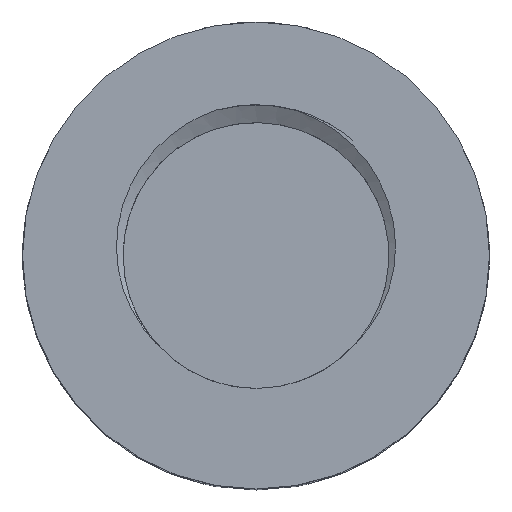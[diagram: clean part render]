
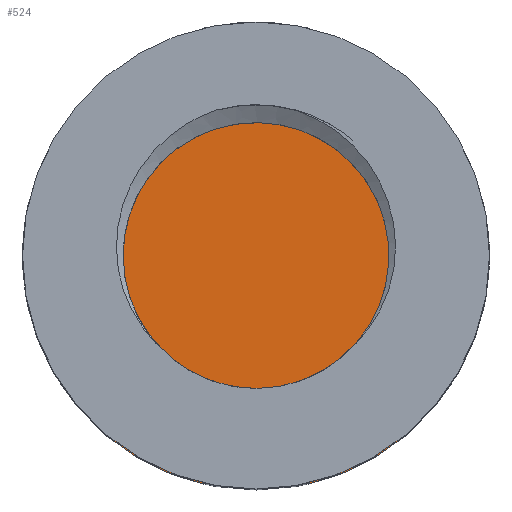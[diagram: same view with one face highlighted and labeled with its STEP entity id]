
A CAD part, top view. The second image highlights one B-rep face of the part: STEP entity #524.
In plain terms, the highlighted planar face has unit normal (0, 0, 1).
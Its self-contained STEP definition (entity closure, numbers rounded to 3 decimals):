
#21=PLANE('',#573);
#48=FACE_OUTER_BOUND('',#80,.T.);
#80=EDGE_LOOP('',(#399,#400,#401,#402,#403,#404,#405,#406,#407,#408,#409,
#410,#411,#412,#413,#414));
#105=CIRCLE('',#574,11.);
#106=CIRCLE('',#575,9.);
#107=CIRCLE('',#576,11.);
#108=CIRCLE('',#577,9.);
#109=CIRCLE('',#578,11.);
#110=CIRCLE('',#579,9.);
#111=CIRCLE('',#580,11.);
#112=CIRCLE('',#581,9.);
#144=LINE('',#1762,#182);
#145=LINE('',#1766,#183);
#146=LINE('',#1770,#184);
#147=LINE('',#1774,#185);
#148=LINE('',#1778,#186);
#149=LINE('',#1782,#187);
#150=LINE('',#1786,#188);
#151=LINE('',#1790,#189);
#182=VECTOR('',#649,10.);
#183=VECTOR('',#652,10.);
#184=VECTOR('',#655,10.);
#185=VECTOR('',#658,10.);
#186=VECTOR('',#661,10.);
#187=VECTOR('',#664,10.);
#188=VECTOR('',#667,10.);
#189=VECTOR('',#670,10.);
#233=VERTEX_POINT('',#1760);
#234=VERTEX_POINT('',#1761);
#235=VERTEX_POINT('',#1763);
#236=VERTEX_POINT('',#1765);
#237=VERTEX_POINT('',#1767);
#238=VERTEX_POINT('',#1769);
#239=VERTEX_POINT('',#1771);
#240=VERTEX_POINT('',#1773);
#241=VERTEX_POINT('',#1775);
#242=VERTEX_POINT('',#1777);
#243=VERTEX_POINT('',#1779);
#244=VERTEX_POINT('',#1781);
#245=VERTEX_POINT('',#1783);
#246=VERTEX_POINT('',#1785);
#247=VERTEX_POINT('',#1787);
#248=VERTEX_POINT('',#1789);
#294=EDGE_CURVE('',#233,#234,#144,.T.);
#295=EDGE_CURVE('',#234,#235,#105,.T.);
#296=EDGE_CURVE('',#235,#236,#145,.T.);
#297=EDGE_CURVE('',#236,#237,#106,.T.);
#298=EDGE_CURVE('',#237,#238,#146,.T.);
#299=EDGE_CURVE('',#238,#239,#107,.T.);
#300=EDGE_CURVE('',#239,#240,#147,.T.);
#301=EDGE_CURVE('',#240,#241,#108,.T.);
#302=EDGE_CURVE('',#241,#242,#148,.T.);
#303=EDGE_CURVE('',#242,#243,#109,.T.);
#304=EDGE_CURVE('',#243,#244,#149,.T.);
#305=EDGE_CURVE('',#244,#245,#110,.T.);
#306=EDGE_CURVE('',#245,#246,#150,.T.);
#307=EDGE_CURVE('',#246,#247,#111,.T.);
#308=EDGE_CURVE('',#247,#248,#151,.T.);
#309=EDGE_CURVE('',#248,#233,#112,.T.);
#399=ORIENTED_EDGE('',*,*,#294,.T.);
#400=ORIENTED_EDGE('',*,*,#295,.T.);
#401=ORIENTED_EDGE('',*,*,#296,.T.);
#402=ORIENTED_EDGE('',*,*,#297,.T.);
#403=ORIENTED_EDGE('',*,*,#298,.T.);
#404=ORIENTED_EDGE('',*,*,#299,.T.);
#405=ORIENTED_EDGE('',*,*,#300,.T.);
#406=ORIENTED_EDGE('',*,*,#301,.T.);
#407=ORIENTED_EDGE('',*,*,#302,.T.);
#408=ORIENTED_EDGE('',*,*,#303,.T.);
#409=ORIENTED_EDGE('',*,*,#304,.T.);
#410=ORIENTED_EDGE('',*,*,#305,.T.);
#411=ORIENTED_EDGE('',*,*,#306,.T.);
#412=ORIENTED_EDGE('',*,*,#307,.T.);
#413=ORIENTED_EDGE('',*,*,#308,.T.);
#414=ORIENTED_EDGE('',*,*,#309,.T.);
#524=ADVANCED_FACE('',(#48),#21,.T.);
#573=AXIS2_PLACEMENT_3D('',#1759,#647,#648);
#574=AXIS2_PLACEMENT_3D('',#1764,#650,#651);
#575=AXIS2_PLACEMENT_3D('',#1768,#653,#654);
#576=AXIS2_PLACEMENT_3D('',#1772,#656,#657);
#577=AXIS2_PLACEMENT_3D('',#1776,#659,#660);
#578=AXIS2_PLACEMENT_3D('',#1780,#662,#663);
#579=AXIS2_PLACEMENT_3D('',#1784,#665,#666);
#580=AXIS2_PLACEMENT_3D('',#1788,#668,#669);
#581=AXIS2_PLACEMENT_3D('',#1791,#671,#672);
#647=DIRECTION('center_axis',(0.,0.,1.));
#648=DIRECTION('ref_axis',(1.,0.,0.));
#649=DIRECTION('',(-1.,0.,0.));
#650=DIRECTION('center_axis',(0.,0.,1.));
#651=DIRECTION('ref_axis',(1.,0.,0.));
#652=DIRECTION('',(0.,1.,0.));
#653=DIRECTION('center_axis',(0.,0.,1.));
#654=DIRECTION('ref_axis',(1.,0.,0.));
#655=DIRECTION('',(0.,-1.,0.));
#656=DIRECTION('center_axis',(0.,0.,1.));
#657=DIRECTION('ref_axis',(1.,0.,0.));
#658=DIRECTION('',(-1.,0.,0.));
#659=DIRECTION('center_axis',(0.,0.,1.));
#660=DIRECTION('ref_axis',(1.,0.,0.));
#661=DIRECTION('',(1.,0.,0.));
#662=DIRECTION('center_axis',(0.,0.,1.));
#663=DIRECTION('ref_axis',(1.,0.,0.));
#664=DIRECTION('',(0.,-1.,0.));
#665=DIRECTION('center_axis',(0.,0.,1.));
#666=DIRECTION('ref_axis',(1.,0.,0.));
#667=DIRECTION('',(0.,1.,0.));
#668=DIRECTION('center_axis',(0.,0.,1.));
#669=DIRECTION('ref_axis',(1.,0.,0.));
#670=DIRECTION('',(1.,0.,0.));
#671=DIRECTION('center_axis',(0.,0.,1.));
#672=DIRECTION('ref_axis',(1.,0.,0.));
#1759=CARTESIAN_POINT('Origin',(0.,0.,-21.));
#1760=CARTESIAN_POINT('',(-8.646,-2.5,-21.));
#1761=CARTESIAN_POINT('',(-10.712,-2.5,-21.));
#1762=CARTESIAN_POINT('',(-5.356,-2.5,-21.));
#1763=CARTESIAN_POINT('',(-2.5,-10.712,-21.));
#1764=CARTESIAN_POINT('Origin',(0.,0.,-21.));
#1765=CARTESIAN_POINT('',(-2.5,-8.646,-21.));
#1766=CARTESIAN_POINT('',(-2.5,-4.323,-21.));
#1767=CARTESIAN_POINT('',(2.5,-8.646,-21.));
#1768=CARTESIAN_POINT('Origin',(0.,0.,-21.));
#1769=CARTESIAN_POINT('',(2.5,-10.712,-21.));
#1770=CARTESIAN_POINT('',(2.5,-5.356,-21.));
#1771=CARTESIAN_POINT('',(10.712,-2.5,-21.));
#1772=CARTESIAN_POINT('Origin',(0.,0.,-21.));
#1773=CARTESIAN_POINT('',(8.646,-2.5,-21.));
#1774=CARTESIAN_POINT('',(4.323,-2.5,-21.));
#1775=CARTESIAN_POINT('',(8.646,2.5,-21.));
#1776=CARTESIAN_POINT('Origin',(0.,0.,-21.));
#1777=CARTESIAN_POINT('',(10.712,2.5,-21.));
#1778=CARTESIAN_POINT('',(5.356,2.5,-21.));
#1779=CARTESIAN_POINT('',(2.5,10.712,-21.));
#1780=CARTESIAN_POINT('Origin',(0.,0.,-21.));
#1781=CARTESIAN_POINT('',(2.5,8.646,-21.));
#1782=CARTESIAN_POINT('',(2.5,4.323,-21.));
#1783=CARTESIAN_POINT('',(-2.5,8.646,-21.));
#1784=CARTESIAN_POINT('Origin',(0.,0.,-21.));
#1785=CARTESIAN_POINT('',(-2.5,10.712,-21.));
#1786=CARTESIAN_POINT('',(-2.5,5.356,-21.));
#1787=CARTESIAN_POINT('',(-10.712,2.5,-21.));
#1788=CARTESIAN_POINT('Origin',(0.,0.,-21.));
#1789=CARTESIAN_POINT('',(-8.646,2.5,-21.));
#1790=CARTESIAN_POINT('',(-4.323,2.5,-21.));
#1791=CARTESIAN_POINT('Origin',(0.,0.,-21.));
